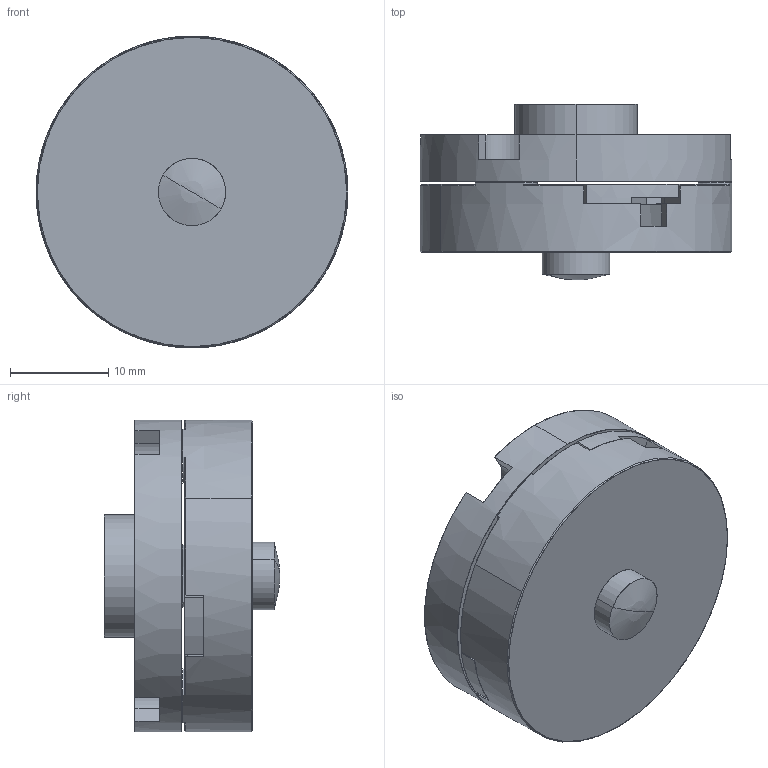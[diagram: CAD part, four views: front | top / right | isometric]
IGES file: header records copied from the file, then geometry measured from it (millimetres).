
Start section: SolidWorks IGES file using analytic representation for surfaces
Global section: file name: C:\Documents and Settings\Soundar\My Documents\Solidworks Files\iLoad Mini\dome\for customer\iload-mini-dome-with-ix125.IGS; native system: SolidWorks 2009; preprocessor: SolidWorks 2009; author: Soundar; date: 120430.135438; units: inch
Bounding box: 31.75 x 17.88 x 31.75 mm (x, y, z)
Surface area: 4451.4 mm2 (no closed solid volume)
Topology: 0 solids, 0 shells, 122 faces, 1766 edges, 1765 vertices
Faces by surface type: revolution 85, bspline 37
